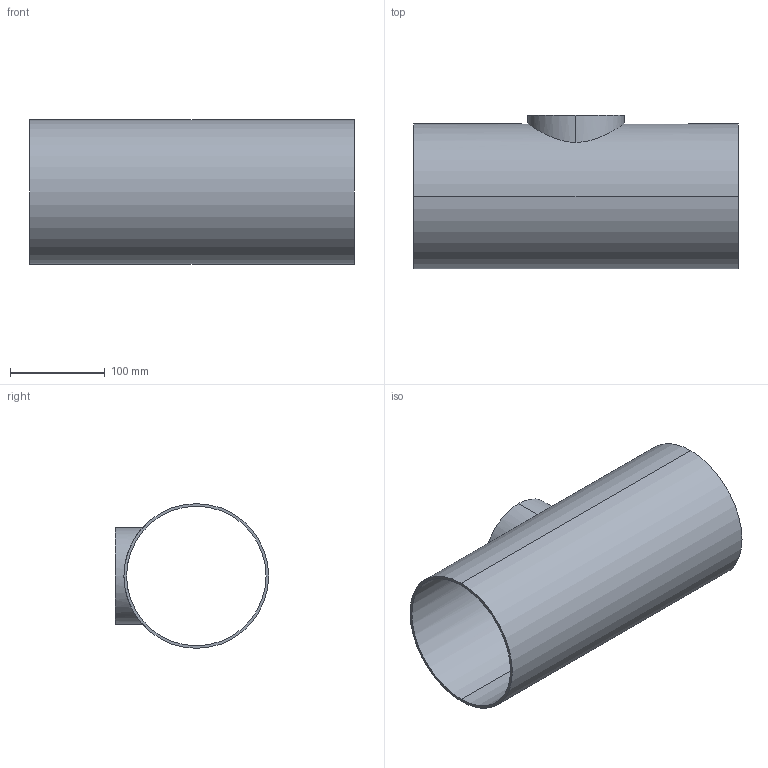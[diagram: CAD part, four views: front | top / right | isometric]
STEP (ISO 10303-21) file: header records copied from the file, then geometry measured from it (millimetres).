
FILE_DESCRIPTION (( 'STEP AP214' ), '1' );
FILE_NAME ('TEG7RS6L6.0x4.0-...STEP', '2016-05-24T11:30:44', ( 'eran' ), ( '' ), 'SwSTEP 2.0', 'SolidWorks 2016', '' );
FILE_SCHEMA (( 'AUTOMOTIVE_DESIGN' ));
Length unit declared in the file: millimetre
Products named in the file (1): TEG7RS6L6.0x4.0-..
Bounding box: 342 x 161.5 x 152.4 mm (x, y, z)
Volume: 435258.6 mm3; surface area: 320434.9 mm2
Topology: 1 solids, 1 shells, 11 faces, 24 edges, 16 vertices
Faces by surface type: cylinder 8, plane 3
Entity records: 638 total; most frequent: CARTESIAN_POINT 346, DIRECTION 56, ORIENTED_EDGE 48, EDGE_CURVE 24, AXIS2_PLACEMENT_3D 24, EDGE_LOOP 16, VERTEX_POINT 16, CIRCLE 12
